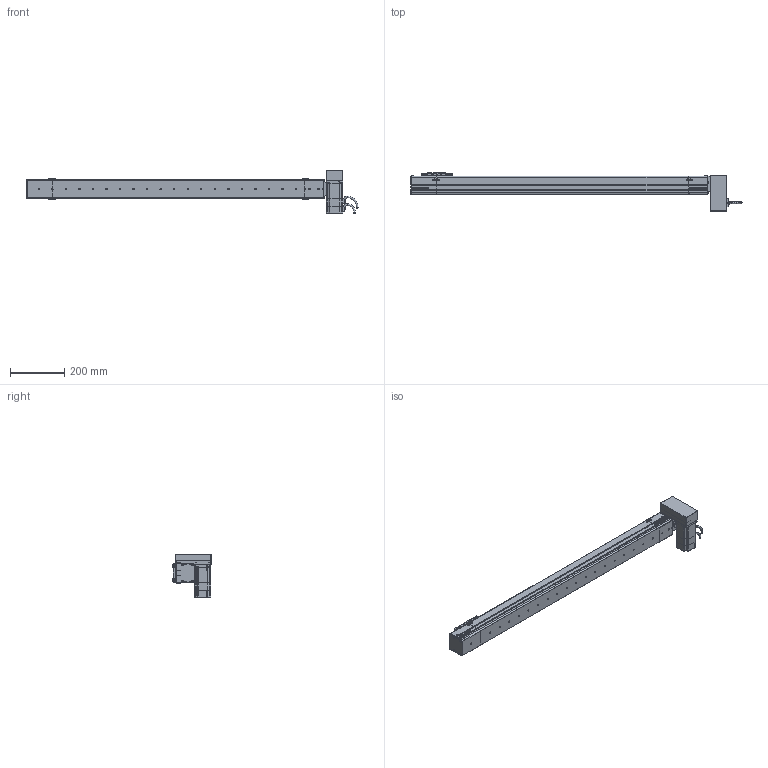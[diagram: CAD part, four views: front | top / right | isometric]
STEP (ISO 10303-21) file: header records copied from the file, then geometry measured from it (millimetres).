
FILE_DESCRIPTION (( 'STEP AP214' ), '1' );
FILE_NAME ('S07 CBN LU S1000.STEP', '2010-06-29T10:16:52', ( 'Conseil Régional Haute-Normandie' ), ( 'Conseil Régional Haute-Normandie' ), 'SwSTEP 2.0', 'SolidWorks 2010', '' );
FILE_SCHEMA (( 'AUTOMOTIVE_DESIGN' ));
Length unit declared in the file: millimetre
Products named in the file (31): P3 90A_Default; plaque de serrage Tail_Default; Plaque de bout Tail_Default; Couvercle Tail_Default; Corp Tail_Default; Tail S07 Tail_Default; Couvercle S07 S1000_Default; Corp S07 S1000_Default; VisM3_Default; Conecteur2 60BLDC_Default; Conecteur 60BLDC_Default; Axe 60BLDC_Default; P4_Default; vis M5 L8_Default; support chariot_Default; chariot_Default; Chariot S07_Default; vis M5 L15_Default; Corp LU_Default; Head LU_Default; S07 CBN LU S1000; Cache Support Moteur LU_Default; plaque de serrage LU_Default; Plaque de bout LU_Default; Support Moteur LU_Default; Rondelle de Serrage LU_Default; Couvercle LU_Default; P2 90A_Default; P1_Default; 60BLDC90A-640_Default
Assembly tree (71 placements, depth 4):
  S07 CBN LU S1000
    Head LU_Default
      vis M5 L15_Default  x16
      Rondelle de Serrage LU_Default  x3
      plaque de serrage LU_Default
      Plaque de bout LU_Default
      Couvercle LU_Default
      Corp LU_Default
      60BLDC90A-640_Default
        VisM3_Default  x12
        P2 90A_Default
        Axe 60BLDC_Default
        P4_Default
        Conecteur 60BLDC_Default
        P3 90A_Default
        P1_Default
        Conecteur2 60BLDC_Default
      Support Moteur LU_Default
      Cache Support Moteur LU_Default
    Tail S07 Tail_Default
      plaque de serrage Tail_Default
      vis M5 L15_Default  x6
      Corp Tail_Default
      Couvercle Tail_Default
      Plaque de bout Tail_Default
    Corp S07 S1000_Default
      Corp S07 S1000_Default
      Couvercle S07 S1000_Default
    Chariot S07_Default
      vis M5 L8_Default  x8
      support chariot_Default
      chariot_Default
Bounding box: 1225.7 x 142 x 162 mm (x, y, z)
Volume: 6115479.5 mm3; surface area: 761227.5 mm2
Topology: 108 solids, 108 shells, 3910 faces, 9626 edges, 6196 vertices
Faces by surface type: plane 2256, bspline 756, cylinder 687, torus 112, cone 95, sphere 4
Entity records: 153833 total; most frequent: CARTESIAN_POINT 79669, ORIENTED_EDGE 14772, DIRECTION 11059, EDGE_CURVE 7386, VERTEX_POINT 4881, VECTOR 4785, LINE 4785, EDGE_LOOP 3173
